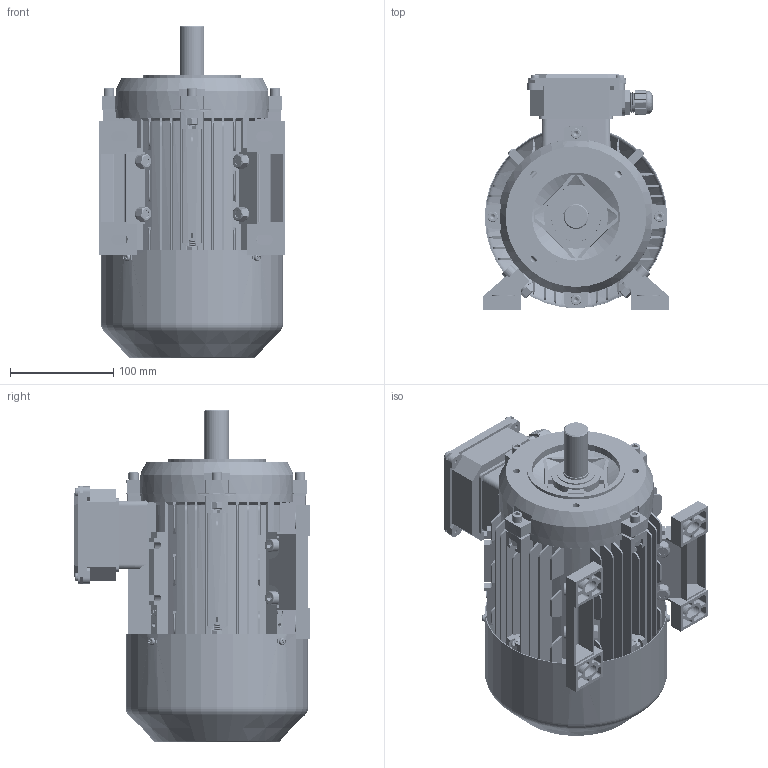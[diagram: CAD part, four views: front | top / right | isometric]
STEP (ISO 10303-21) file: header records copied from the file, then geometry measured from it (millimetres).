
FILE_DESCRIPTION (( 'STEP AP203' ), '1' );
FILE_NAME ('ME3-90SB34 3D.STEP', '2024-06-06T09:46:52', ( 'User' ), ( 'China' ), 'SwSTEP 2.0', 'SolidWorks 2018', '' );
FILE_SCHEMA (( 'CONFIG_CONTROL_DESIGN' ));
Length unit declared in the file: millimetre
Products named in the file (24): 蚐猾37X25X7; hexagon socket head cap screws gb_GB_FASTENER_SCREWS_HSHCS M6X35-S; 8.200.09005蛌粣ME3-90; hexagon socket head cap screws gb_GB_FASTENER_SCREWS_HSHCS M6X30-S; hexagon nuts grade c gb_GB_FASTENER_NUT_SNC1 M6-S; MS63-71諉盄碟菁釱; spring lock washers--normal type gb_GB_FASTENER_WASHER_SW 6; 8.306.09004ME2-90瑞欶; MS63-71諉盄碟裔; 8.013.09013 ME2 90B14瑞盖; cross recessed cheese head screws gb_GB_CROSS_SCREWS_TYPE2 M4X6-6  H type-N; 蹟杶郋M20X1.5; 黑芛20X1.5; 8.046.09004ME2-90S菁褐; 蹟簸M20X1.5; ME3-90SB34  3D; hexagon socket head cap screws gb_GB_FASTENER_SCREWS_HSHCS M8X25-S; Y2 80瑞珔; spring lock washers--normal type gb_GB_FASTENER_WASHER_SW 8; circlips for shaft--type a large gb_GB_CONNECTING_PIECE_RING_RRA 19; 8.034.09004ME2-90S儂褲; hex nuts, style 2-grades ab gb_GB_HEXAGON_TYPE13 M8 Normal Style-C; cross recessed cheese head screws gb_GB_CROSS_SCREWS_TYPE2 M5X8-8  H type-N; deep groove ball bearings gb_Rolling bearings 6205 GB 276-94
Assembly tree (58 placements, depth 2):
  ME3-90SB34  3D
    8.034.09004ME2-90S儂褲
    deep groove ball bearings gb_Rolling bearings 6205 GB 276-94  x2
    8.200.09005蛌粣ME3-90
    MS63-71諉盄碟菁釱
    MS63-71諉盄碟裔
    蹟杶郋M20X1.5
    蹟簸M20X1.5
    Y2 80瑞珔
    circlips for shaft--type a large gb_GB_CONNECTING_PIECE_RING_RRA 19
    cross recessed cheese head screws gb_GB_CROSS_SCREWS_TYPE2 M5X8-8  H type-N  x4
    hexagon socket head cap screws gb_GB_FASTENER_SCREWS_HSHCS M6X35-S  x6
    hexagon nuts grade c gb_GB_FASTENER_NUT_SNC1 M6-S  x8
    8.306.09004ME2-90瑞欶
    cross recessed cheese head screws gb_GB_CROSS_SCREWS_TYPE2 M4X6-6  H type-N  x4
    8.046.09004ME2-90S菁褐  x2
    hexagon socket head cap screws gb_GB_FASTENER_SCREWS_HSHCS M8X25-S  x4
    spring lock washers--normal type gb_GB_FASTENER_WASHER_SW 8  x4
    hex nuts, style 2-grades ab gb_GB_HEXAGON_TYPE13 M8 Normal Style-C  x4
    蚐猾37X25X7
    hexagon socket head cap screws gb_GB_FASTENER_SCREWS_HSHCS M6X30-S  x4
    spring lock washers--normal type gb_GB_FASTENER_WASHER_SW 6  x4
    8.013.09013 ME2 90B14瑞盖
    黑芛20X1.5
Bounding box: 180.32 x 227.98 x 321.21 mm (x, y, z)
Volume: 1018225.9 mm3; surface area: 777826.8 mm2
Topology: 74 solids, 74 shells, 8149 faces, 20005 edges, 11942 vertices
Faces by surface type: plane 2844, cone 2758, cylinder 2121, torus 210, bspline 152, sphere 64
Entity records: 156427 total; most frequent: CARTESIAN_POINT 47408, ORIENTED_EDGE 23074, DIRECTION 20647, EDGE_CURVE 11537, VERTEX_POINT 7354, AXIS2_PLACEMENT_3D 6920, VECTOR 6807, LINE 6807
